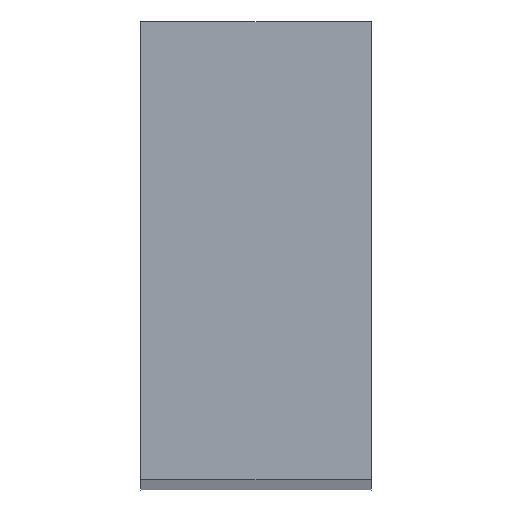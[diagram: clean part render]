
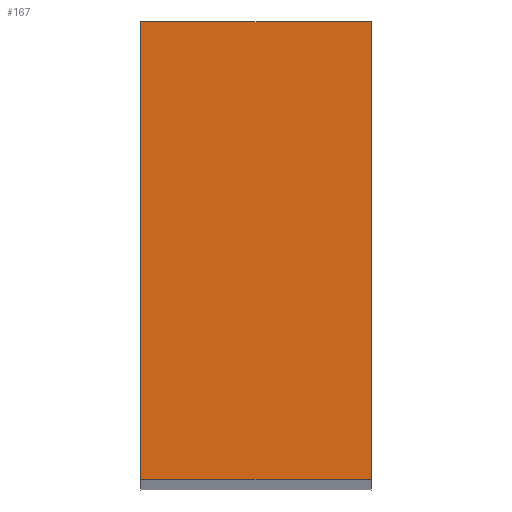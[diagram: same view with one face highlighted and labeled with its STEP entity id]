
A CAD part, top view. The second image highlights one B-rep face of the part: STEP entity #167.
In plain terms, the highlighted planar face has unit normal (0, 0, 1).
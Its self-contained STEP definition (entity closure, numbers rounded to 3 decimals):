
#48 = CARTESIAN_POINT ( 'NONE',  ( -7.625, 15.125, 410. ) ) ;
#123 = CARTESIAN_POINT ( 'NONE',  ( 7.625, -15.125, 410. ) ) ;
#129 = CARTESIAN_POINT ( 'NONE',  ( -7.625, -15.125, 410. ) ) ;
#167 = ADVANCED_FACE ( 'NONE', ( #1179 ), #643, .F. ) ;
#264 = ORIENTED_EDGE ( 'NONE', *, *, #590, .T. ) ;
#265 = ORIENTED_EDGE ( 'NONE', *, *, #553, .F. ) ;
#266 = ORIENTED_EDGE ( 'NONE', *, *, #589, .F. ) ;
#267 = ORIENTED_EDGE ( 'NONE', *, *, #574, .T. ) ;
#359 = VERTEX_POINT ( 'NONE', #48 ) ;
#399 = VECTOR ( 'NONE', #1127, 1000. ) ;
#400 = LINE ( 'NONE', #1133, #401 ) ;
#401 = VECTOR ( 'NONE', #1122, 1000. ) ;
#454 = CARTESIAN_POINT ( 'NONE',  ( 7.625, -15.125, 410. ) ) ;
#455 = DIRECTION ( 'NONE',  ( 1., 0., 0. ) ) ;
#466 = VECTOR ( 'NONE', #455, 1000. ) ;
#478 = LINE ( 'NONE', #1113, #399 ) ;
#553 = EDGE_CURVE ( 'NONE', #359, #606, #793, .T. ) ;
#574 = EDGE_CURVE ( 'NONE', #1240, #1237, #915, .T. ) ;
#589 = EDGE_CURVE ( 'NONE', #606, #1237, #478, .T. ) ;
#590 = EDGE_CURVE ( 'NONE', #359, #1240, #400, .T. ) ;
#601 = AXIS2_PLACEMENT_3D ( 'NONE', #830, #835, #832 ) ;
#606 = VERTEX_POINT ( 'NONE', #1059 ) ;
#643 = PLANE ( 'NONE',  #601 ) ;
#793 = LINE ( 'NONE', #1300, #794 ) ;
#794 = VECTOR ( 'NONE', #1298, 1000. ) ;
#830 = CARTESIAN_POINT ( 'NONE',  ( 7.625, 15.125, 410. ) ) ;
#832 = DIRECTION ( 'NONE',  ( -1., 0., 0. ) ) ;
#835 = DIRECTION ( 'NONE',  ( 0., 0., -1. ) ) ;
#915 = LINE ( 'NONE', #454, #466 ) ;
#1059 = CARTESIAN_POINT ( 'NONE',  ( 7.625, 15.125, 410. ) ) ;
#1113 = CARTESIAN_POINT ( 'NONE',  ( 7.625, 15.125, 410. ) ) ;
#1122 = DIRECTION ( 'NONE',  ( 0., -1., 0. ) ) ;
#1127 = DIRECTION ( 'NONE',  ( 0., -1., 0. ) ) ;
#1133 = CARTESIAN_POINT ( 'NONE',  ( -7.625, 15.125, 410. ) ) ;
#1179 = FACE_OUTER_BOUND ( 'NONE', #1200, .T. ) ;
#1200 = EDGE_LOOP ( 'NONE', ( #267, #266, #265, #264 ) ) ;
#1237 = VERTEX_POINT ( 'NONE', #123 ) ;
#1240 = VERTEX_POINT ( 'NONE', #129 ) ;
#1298 = DIRECTION ( 'NONE',  ( 1., 0., 0. ) ) ;
#1300 = CARTESIAN_POINT ( 'NONE',  ( 7.625, 15.125, 410. ) ) ;
